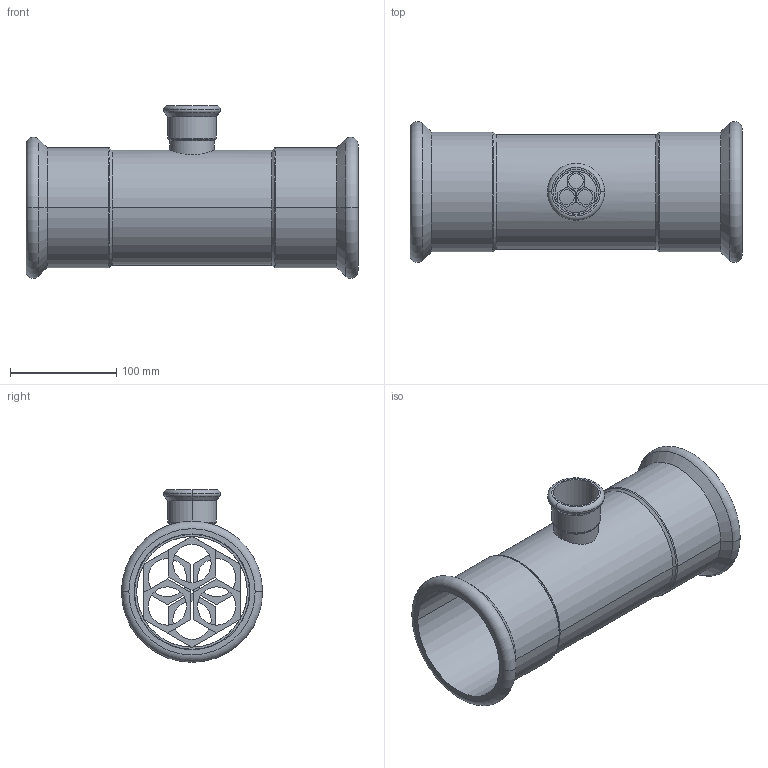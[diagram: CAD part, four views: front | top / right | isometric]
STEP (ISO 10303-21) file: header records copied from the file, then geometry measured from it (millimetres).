
FILE_DESCRIPTION(('OneSpaceDesigner STEP Export'),'2;1');
FILE_NAME('R2715 108x42x108.stp','2010-06-10T 9:43:05',(''),(''),'OneSpace Designer STEP processor for AP214 (Solid Model)','OneSpace Modeling 15.00A 14-Mar-2007 (C) CoCreate Software GmbH','');
FILE_SCHEMA(('AUTOMOTIVE_DESIGN { 1 0 10303 214 1 1 1 1 }'));
Length unit declared in the file: millimetre
Products named in the file (2): R2715_108x42x108
Assembly tree (1 placements, depth 2):
  R2715_108x42x108
    R2715_108x42x108
Bounding box: 312 x 132.58 x 162.29 mm (x, y, z)
Volume: 350469.9 mm3; surface area: 255232.4 mm2
Topology: 1 solids, 1 shells, 170 faces, 424 edges, 273 vertices
Faces by surface type: plane 90, cylinder 54, torus 14, cone 12
Entity records: 5641 total; most frequent: CARTESIAN_POINT 1912, ORIENTED_EDGE 848, DIRECTION 643, EDGE_CURVE 424, VERTEX_POINT 273, VECTOR 263, LINE 263, EDGE_LOOP 207
